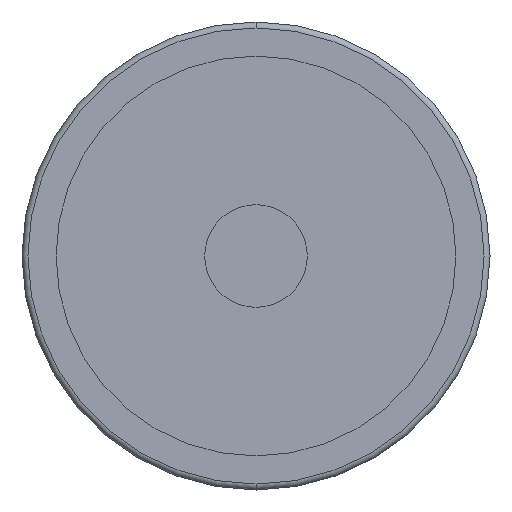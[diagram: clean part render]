
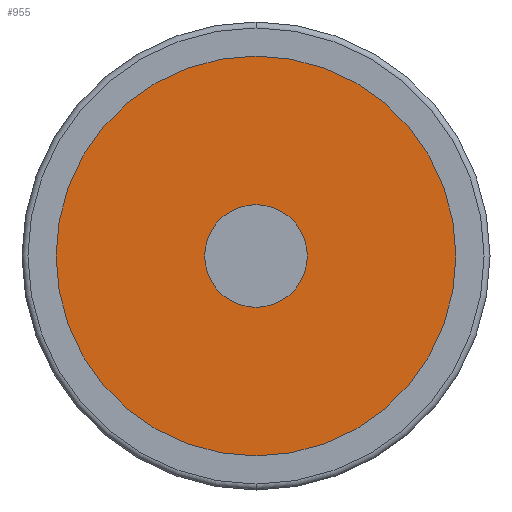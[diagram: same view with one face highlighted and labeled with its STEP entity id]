
A CAD part, front view. The second image highlights one B-rep face of the part: STEP entity #955.
In plain terms, the highlighted planar face has unit normal (0, -1, 0).
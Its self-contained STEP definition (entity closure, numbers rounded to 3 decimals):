
#12 = CIRCLE ( 'NONE', #2382, 8. ) ;
#13 = VERTEX_POINT ( 'NONE', #1493 ) ;
#16 = CIRCLE ( 'NONE', #2027, 34.25 ) ;
#40 = CARTESIAN_POINT ( 'NONE',  ( 8., 4.5, 0. ) ) ;
#125 = CARTESIAN_POINT ( 'NONE',  ( -8., 4.5, 0. ) ) ;
#157 = VERTEX_POINT ( 'NONE', #40 ) ;
#233 = CARTESIAN_POINT ( 'NONE',  ( 34.25, 4.5, 0. ) ) ;
#284 = DIRECTION ( 'NONE',  ( 1., 0., 0. ) ) ;
#293 = PLANE ( 'NONE',  #1384 ) ;
#317 = DIRECTION ( 'NONE',  ( 1., 0., 0. ) ) ;
#513 = ORIENTED_EDGE ( 'NONE', *, *, #1768, .T. ) ;
#524 = CARTESIAN_POINT ( 'NONE',  ( -34.25, 4.5, 0. ) ) ;
#531 = CIRCLE ( 'NONE', #1865, 8. ) ;
#661 = FACE_BOUND ( 'NONE', #2362, .T. ) ;
#664 = CARTESIAN_POINT ( 'NONE',  ( 0., 4.5, 0. ) ) ;
#782 = EDGE_CURVE ( 'NONE', #1448, #157, #12, .T. ) ;
#839 = VERTEX_POINT ( 'NONE', #233 ) ;
#955 = ADVANCED_FACE ( 'NONE', ( #2414, #661 ), #293, .T. ) ;
#988 = EDGE_LOOP ( 'NONE', ( #1378, #513 ) ) ;
#1003 = DIRECTION ( 'NONE',  ( 0., -1., 0. ) ) ;
#1139 = CARTESIAN_POINT ( 'NONE',  ( 0., 4.5, 0. ) ) ;
#1219 = CIRCLE ( 'NONE', #1667, 34.25 ) ;
#1230 = DIRECTION ( 'NONE',  ( 0., -1., 0. ) ) ;
#1241 = CARTESIAN_POINT ( 'NONE',  ( 0., 4.5, 0. ) ) ;
#1276 = DIRECTION ( 'NONE',  ( 0., -1., 0. ) ) ;
#1280 = DIRECTION ( 'NONE',  ( 1., 0., 0. ) ) ;
#1378 = ORIENTED_EDGE ( 'NONE', *, *, #1642, .T. ) ;
#1384 = AXIS2_PLACEMENT_3D ( 'NONE', #524, #1276, #317 ) ;
#1448 = VERTEX_POINT ( 'NONE', #125 ) ;
#1449 = DIRECTION ( 'NONE',  ( 0., -1., 0. ) ) ;
#1493 = CARTESIAN_POINT ( 'NONE',  ( -34.25, 4.5, 0. ) ) ;
#1535 = DIRECTION ( 'NONE',  ( 0., -1., 0. ) ) ;
#1551 = DIRECTION ( 'NONE',  ( 1., 0., 0. ) ) ;
#1572 = EDGE_CURVE ( 'NONE', #157, #1448, #531, .T. ) ;
#1642 = EDGE_CURVE ( 'NONE', #13, #839, #1219, .T. ) ;
#1667 = AXIS2_PLACEMENT_3D ( 'NONE', #664, #1449, #2049 ) ;
#1768 = EDGE_CURVE ( 'NONE', #839, #13, #16, .T. ) ;
#1796 = ORIENTED_EDGE ( 'NONE', *, *, #782, .F. ) ;
#1865 = AXIS2_PLACEMENT_3D ( 'NONE', #2338, #1003, #1551 ) ;
#2027 = AXIS2_PLACEMENT_3D ( 'NONE', #1241, #1230, #284 ) ;
#2049 = DIRECTION ( 'NONE',  ( 1., 0., 0. ) ) ;
#2278 = ORIENTED_EDGE ( 'NONE', *, *, #1572, .F. ) ;
#2338 = CARTESIAN_POINT ( 'NONE',  ( 0., 4.5, 0. ) ) ;
#2362 = EDGE_LOOP ( 'NONE', ( #2278, #1796 ) ) ;
#2382 = AXIS2_PLACEMENT_3D ( 'NONE', #1139, #1535, #1280 ) ;
#2414 = FACE_OUTER_BOUND ( 'NONE', #988, .T. ) ;
